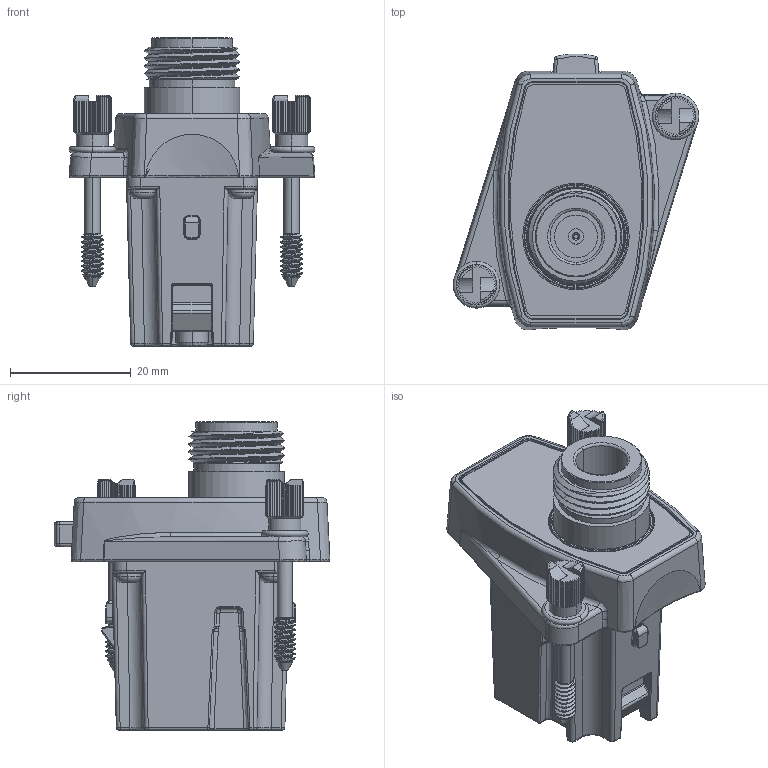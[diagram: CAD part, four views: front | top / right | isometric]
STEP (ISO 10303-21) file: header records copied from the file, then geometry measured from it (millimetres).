
FILE_DESCRIPTION((''),'2;1');
FILE_NAME('ADAPTER_BMA-N_HPI_ASM','2015-04-02T',('night'),(''),'PRO/ENGINEER BY PARAMETRIC TECHNOLOGY CORPORATION, 2012480','PRO/ENGINEER BY PARAMETRIC TECHNOLOGY CORPORATION, 2012480','');
FILE_SCHEMA(('CONFIG_CONTROL_DESIGN'));
Length unit declared in the file: inch
Products named in the file (17): NOSE_3_HPI; PCB_NOSE_3_HPI; 211112500; NUT_BMA_312_HPI; SKELETON_LOCK_HPI; PLATE_ADAPTER_BMA2N_HPI; LOCK_3_HPI; SPRING_LOCK_HPI; BUTTON_LOCK_HPI; LOCK_ADAPTER_BMA-N_HPI_ASM; ADAPTER_BMA2N_HPI; COVER_N_HPI; 211041300; THUMBSCREW_INF; LABEL_ADAPTER-BMA2N_HPI; WASHER_LOCK250_HPI; ADAPTER_BMA-N_HPI_ASM
Assembly tree (24 placements, depth 3):
  ADAPTER_BMA-N_HPI_ASM
    NOSE_3_HPI
    PCB_NOSE_3_HPI
    211112500  x5
    NUT_BMA_312_HPI
    LOCK_ADAPTER_BMA-N_HPI_ASM
      SKELETON_LOCK_HPI
      PLATE_ADAPTER_BMA2N_HPI
      LOCK_3_HPI
      SPRING_LOCK_HPI
      BUTTON_LOCK_HPI
    ADAPTER_BMA2N_HPI
    COVER_N_HPI
    211041300  x4
    THUMBSCREW_INF  x2
    LABEL_ADAPTER-BMA2N_HPI
    WASHER_LOCK250_HPI
Bounding box: 40.77 x 45.77 x 51.1 mm (x, y, z)
Volume: 15772.3 mm3; surface area: 21835.9 mm2
Topology: 22 solids, 22 shells, 2161 faces, 5469 edges, 3390 vertices
Faces by surface type: plane 834, cylinder 680, bspline 321, cone 184, torus 98, sphere 44
Entity records: 80990 total; most frequent: CARTESIAN_POINT 40897, ORIENTED_EDGE 8868, DIRECTION 7484, EDGE_CURVE 4434, AXIS2_PLACEMENT_3D 2752, VERTEX_POINT 2709, VECTOR 1980, LINE 1980
